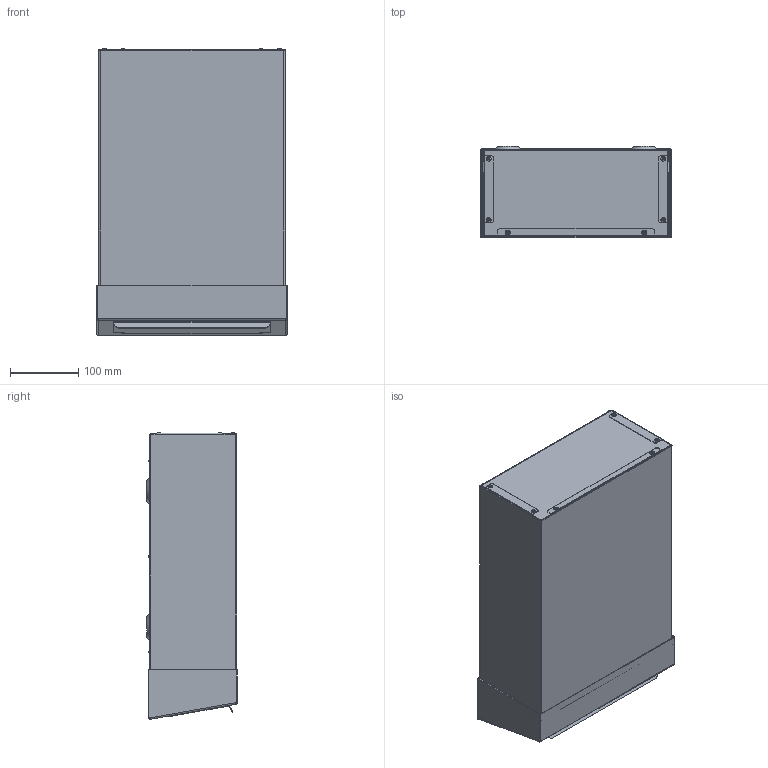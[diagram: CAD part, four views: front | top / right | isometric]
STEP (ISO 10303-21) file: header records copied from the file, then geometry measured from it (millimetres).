
FILE_DESCRIPTION(/* description */ ('Unknown'),/* implementation_level */ '2;1');
FILE_NAME(/* name */ 'Bespoke 10L Sani Bin Assy',/* time_stamp */ '2024-02-07T11:30:16+00:00',/* author */ ('Unknown'),/* organization */ ('Unknown'),/* preprocessor_version */ 'ST-DEVELOPER v18.102',/* originating_system */ 'Solid Edge',/* authorisation */ 'Unknown');
FILE_SCHEMA (('AUTOMOTIVE_DESIGN {1 0 10303 214 3 1 1}'));
Length unit declared in the file: millimetre
Products named in the file (9): 10L Sani Bin Assy; SK13122 Wrapper; SK13123 Back; 3_2_pop_ss_2-4mat; Lid Assy_oa_0; SK13110 lid; SK13111 Flap; m3 X8 hex_soc_button; M3_Nyloc_SS
Assembly tree (21 placements, depth 3):
  10L Sani Bin Assy
    SK13122 Wrapper
    SK13123 Back
    3_2_pop_ss_2-4mat  x12
    Lid Assy_oa_0
      SK13110 lid
      SK13111 Flap
      m3 X8 hex_soc_button  x2
      M3_Nyloc_SS  x2
Bounding box: 280 x 133.3 x 420.72 mm (x, y, z)
Volume: 436250.9 mm3; surface area: 928947.6 mm2
Topology: 20 solids, 20 shells, 602 faces, 1482 edges, 954 vertices
Faces by surface type: plane 299, cylinder 199, torus 38, cone 34, sphere 24, bspline 8
Full cylindrical faces by diameter (mm): 2 x12, 2.5 x2, 2.896 x2, 3.2 x12, 3.3 x12, 3.5 x28, 5 x2, 5.5 x2, 5.896 x2
Entity records: 13937 total; most frequent: CARTESIAN_POINT 2512, DIRECTION 2338, ORIENTED_EDGE 2164, EDGE_CURVE 1082, AXIS2_PLACEMENT_3D 832, VERTEX_POINT 726, LINE 674, VECTOR 674
